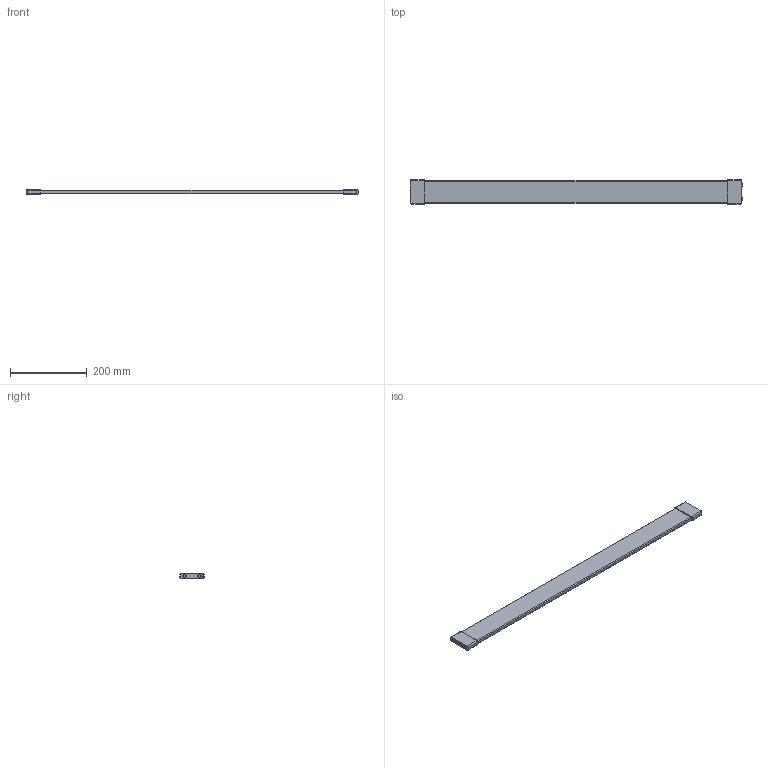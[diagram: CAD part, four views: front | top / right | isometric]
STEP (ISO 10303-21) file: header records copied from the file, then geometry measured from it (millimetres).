
FILE_DESCRIPTION (( 'STEP AP214' ), '1' );
FILE_NAME ('Schubkastenteiler_PROKAB_950.step', '2009-11-04T15:16:53', ( 'Waldinger Reinhard' ), ( 'Grass GmbH' ), 'SwSTEP 2.0', 'SolidWorks 2009', '' );
FILE_SCHEMA (( 'AUTOMOTIVE_DESIGN' ));
Length unit declared in the file: millimetre
Products named in the file (1): Schubkastenteiler_PROKAB_950
Bounding box: 867.9 x 63.7 x 13 mm (x, y, z)
Volume: 522628.2 mm3; surface area: 120570.3 mm2
Topology: 1 solids, 1 shells, 92 faces, 208 edges, 124 vertices
Faces by surface type: cylinder 38, torus 28, plane 22, bspline 4
Entity records: 3210 total; most frequent: CARTESIAN_POINT 1069, DIRECTION 486, ORIENTED_EDGE 416, EDGE_CURVE 208, AXIS2_PLACEMENT_3D 205, VERTEX_POINT 124, CIRCLE 116, EDGE_LOOP 98
